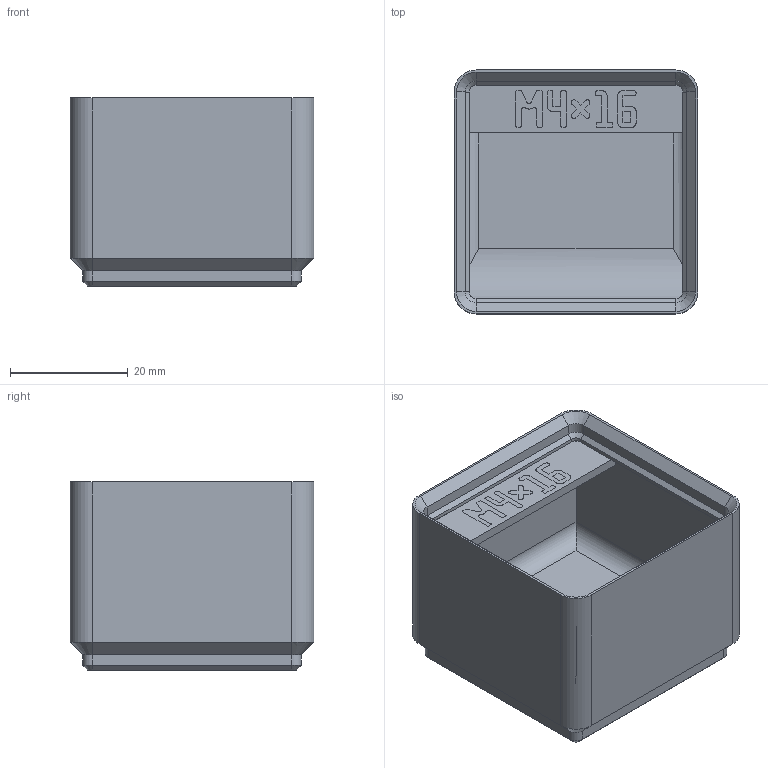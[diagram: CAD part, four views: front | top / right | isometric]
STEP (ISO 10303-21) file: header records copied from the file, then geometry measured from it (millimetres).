
FILE_DESCRIPTION(('Open CASCADE Model'),'2;1');
FILE_NAME('bin_M4_16','2026-11-03T10:52:30',('Author'),('Open CASCADE'), 'Open CASCADE STEP processor 8.0','build123d','Unknown');
FILE_SCHEMA(('AUTOMOTIVE_DESIGN { 1 0 10303 214 1 1 1 1 }'));
Length unit declared in the file: millimetre
Products named in the file (3): bin_M4_16; M4_16_body; M4_16_label
Assembly tree (2 placements, depth 2):
  bin_M4_16
    M4_16_body
    M4_16_label
Bounding box: 41.5 x 41.5 x 32 mm (x, y, z)
Volume: 16774.6 mm3; surface area: 12706.5 mm2
Topology: 6 solids, 6 shells, 1063 faces, 3070 edges, 2026 vertices
Faces by surface type: plane 1023, cylinder 20, cone 20
Entity records: 74165 total; most frequent: CARTESIAN_POINT 12864, DIRECTION 11151, LINE 8910, VECTOR 8910, ORIENTED_EDGE 6140, PCURVE 6140, DEFINITIONAL_REPRESENTATION 6140, EDGE_CURVE 3070
